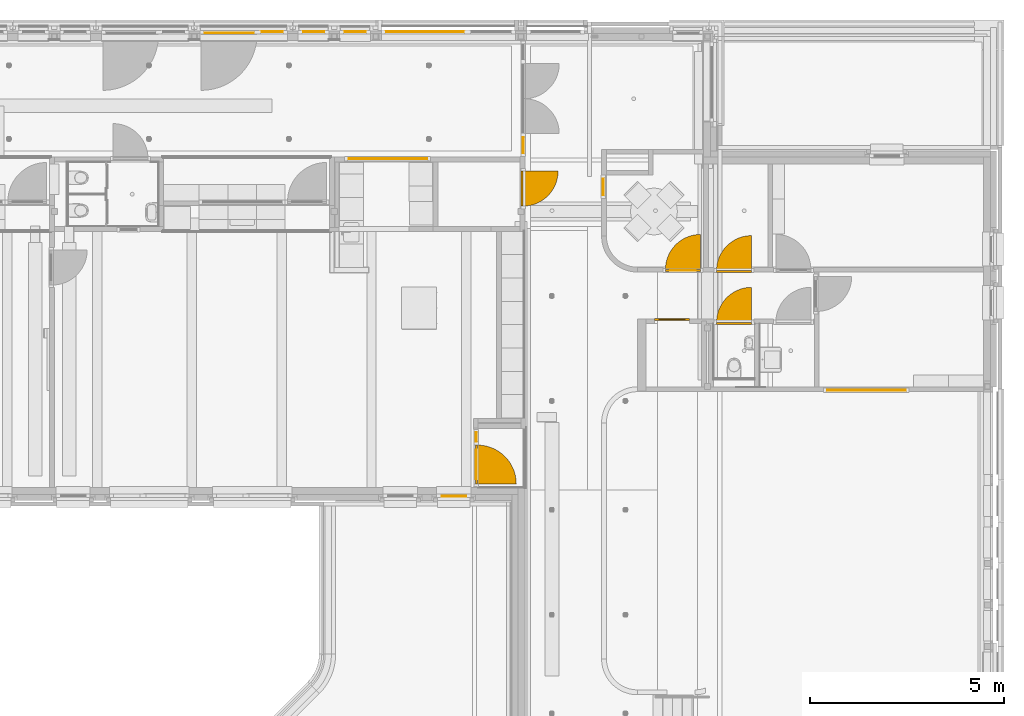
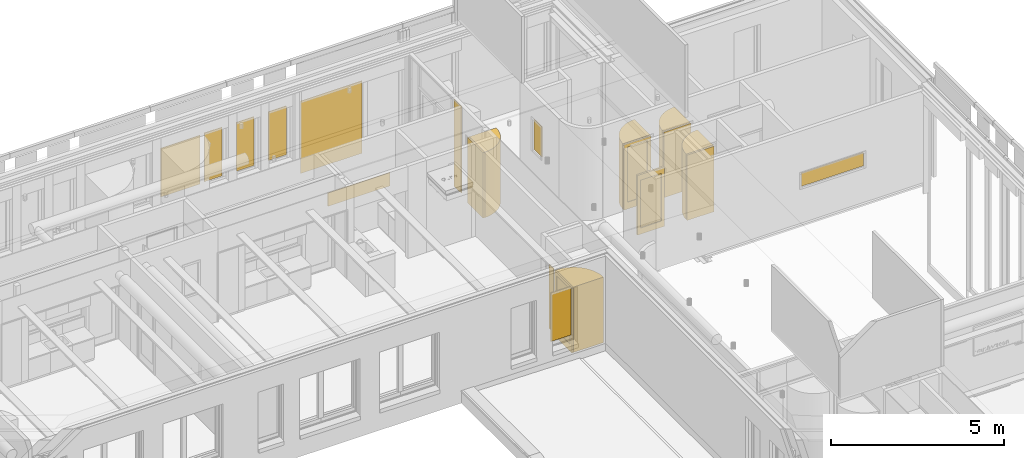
# One storey, part 70 of 128: 18 windows, 6 doors, 5 elements without a shape of their own.
"""IFC2X3 building model written with IfcOpenShell, lengths in millimetres."""

from ifc_helpers import new_model, entity, si_unit, converted_unit, derived_unit, direction, frame, frame_2d, origin, origin_2d_with_axis, place, context, subcontext, project, spatial, polyline, circle_curve, parameter, trimmed, segment, composite_curve, rectangle, outline, extrude, source, transform, mapped, material, material_list, type_object, type_shapes, element, aggregate, save


model = new_model("IFC2X3")

# Units and contexts
model_context = context("Model", 3, precision=0.01, world=origin(), true_north=direction((6.123031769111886e-17, 1.0)))
body_context = subcontext(model_context, "Body", "Model", "MODEL_VIEW")
ifc_project = project(units=[si_unit("LENGTHUNIT", "METRE", prefix="MILLI"), si_unit("AREAUNIT", "SQUARE_METRE"), si_unit("VOLUMEUNIT", "CUBIC_METRE"), converted_unit("PLANEANGLEUNIT", "DEGREE", entity("IfcRatioMeasure", 0.017453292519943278), si_unit("PLANEANGLEUNIT", "RADIAN"), dimensions=[0, 0, 0, 0, 0, 0, 0]), si_unit("MASSUNIT", "GRAM", prefix="KILO"), derived_unit("MASSDENSITYUNIT", [(si_unit("MASSUNIT", "GRAM", prefix="KILO"), 1), (si_unit("LENGTHUNIT", "METRE"), -3)]), derived_unit("IONCONCENTRATIONUNIT", [(si_unit("MASSUNIT", "GRAM", prefix="KILO"), 1), (si_unit("LENGTHUNIT", "METRE"), -3)]), derived_unit("MOMENTOFINERTIAUNIT", [(si_unit("LENGTHUNIT", "METRE"), 4)]), si_unit("TIMEUNIT", "SECOND"), si_unit("FREQUENCYUNIT", "HERTZ"), si_unit("THERMODYNAMICTEMPERATUREUNIT", "DEGREE_CELSIUS"), derived_unit("THERMALTRANSMITTANCEUNIT", [(si_unit("MASSUNIT", "GRAM", prefix="KILO"), 1), (si_unit("THERMODYNAMICTEMPERATUREUNIT", "KELVIN"), -1), (si_unit("TIMEUNIT", "SECOND"), -3)]), derived_unit("THERMALCONDUCTANCEUNIT", [(si_unit("MASSUNIT", "GRAM", prefix="KILO"), 1), (si_unit("THERMODYNAMICTEMPERATUREUNIT", "KELVIN"), -1), (si_unit("TIMEUNIT", "SECOND"), -3), (si_unit("LENGTHUNIT", "METRE"), 1)]), derived_unit("VOLUMETRICFLOWRATEUNIT", [(si_unit("LENGTHUNIT", "METRE"), 3), (si_unit("TIMEUNIT", "SECOND"), -1)]), derived_unit("MASSFLOWRATEUNIT", [(si_unit("MASSUNIT", "GRAM", prefix="KILO"), 1), (si_unit("TIMEUNIT", "SECOND"), -1)]), derived_unit("ROTATIONALFREQUENCYUNIT", [(si_unit("TIMEUNIT", "SECOND"), -1)]), si_unit("ELECTRICCURRENTUNIT", "AMPERE"), si_unit("ELECTRICVOLTAGEUNIT", "VOLT"), si_unit("POWERUNIT", "WATT"), si_unit("FORCEUNIT", "NEWTON", prefix="KILO"), si_unit("ILLUMINANCEUNIT", "LUX"), si_unit("LUMINOUSFLUXUNIT", "LUMEN"), si_unit("LUMINOUSINTENSITYUNIT", "CANDELA"), derived_unit("USERDEFINED", [(si_unit("MASSUNIT", "GRAM", prefix="KILO"), -1), (si_unit("LENGTHUNIT", "METRE"), -2), (si_unit("TIMEUNIT", "SECOND"), 3), (si_unit("LUMINOUSFLUXUNIT", "LUMEN"), 1)]), derived_unit("USERDEFINED", [(si_unit("MASSUNIT", "GRAM", prefix="KILO"), 1), (si_unit("TIMEUNIT", "SECOND"), -3), (si_unit("LENGTHUNIT", "METRE"), 3), (si_unit("ELECTRICCURRENTUNIT", "AMPERE"), -2)]), derived_unit("SOUNDPOWERUNIT", [(si_unit("MASSUNIT", "GRAM", prefix="KILO"), 1), (si_unit("TIMEUNIT", "SECOND"), -3), (si_unit("LENGTHUNIT", "METRE"), 2)]), derived_unit("SOUNDPRESSUREUNIT", [(si_unit("MASSUNIT", "GRAM", prefix="KILO"), 1), (si_unit("LENGTHUNIT", "METRE"), -1), (si_unit("TIMEUNIT", "SECOND"), -2)]), derived_unit("LINEARVELOCITYUNIT", [(si_unit("LENGTHUNIT", "METRE"), 1), (si_unit("TIMEUNIT", "SECOND"), -1)]), si_unit("PRESSUREUNIT", "PASCAL"), derived_unit("USERDEFINED", [(si_unit("MASSUNIT", "GRAM", prefix="KILO"), 1), (si_unit("LENGTHUNIT", "METRE"), -2), (si_unit("TIMEUNIT", "SECOND"), -2)]), derived_unit("LINEARFORCEUNIT", [(si_unit("MASSUNIT", "GRAM", prefix="KILO"), 1), (si_unit("TIMEUNIT", "SECOND"), -2)]), derived_unit("PLANARFORCEUNIT", [(si_unit("MASSUNIT", "GRAM", prefix="KILO"), 1), (si_unit("LENGTHUNIT", "METRE"), -1), (si_unit("TIMEUNIT", "SECOND"), -2)]), derived_unit("SPECIFICHEATCAPACITYUNIT", [(si_unit("THERMODYNAMICTEMPERATUREUNIT", "KELVIN"), -1), (si_unit("LENGTHUNIT", "METRE"), 2), (si_unit("TIMEUNIT", "SECOND"), -2)]), derived_unit("HEATINGVALUEUNIT", [(si_unit("LENGTHUNIT", "METRE"), 2), (si_unit("TIMEUNIT", "SECOND"), -2)]), derived_unit("VAPORPERMEABILITYUNIT", [(si_unit("LENGTHUNIT", "METRE"), -1), (si_unit("TIMEUNIT", "SECOND"), 1)]), derived_unit("DYNAMICVISCOSITYUNIT", [(si_unit("MASSUNIT", "GRAM", prefix="KILO"), 1), (si_unit("TIMEUNIT", "SECOND"), -1), (si_unit("LENGTHUNIT", "METRE"), -1)]), derived_unit("THERMALEXPANSIONCOEFFICIENTUNIT", [(si_unit("THERMODYNAMICTEMPERATUREUNIT", "KELVIN"), -1)]), derived_unit("MODULUSOFELASTICITYUNIT", [(si_unit("MASSUNIT", "GRAM", prefix="KILO"), 1), (si_unit("LENGTHUNIT", "METRE"), -1), (si_unit("TIMEUNIT", "SECOND"), -2)]), derived_unit("ISOTHERMALMOISTURECAPACITYUNIT", [(si_unit("LENGTHUNIT", "METRE"), 3), (si_unit("MASSUNIT", "GRAM", prefix="KILO"), -1)]), derived_unit("MOISTUREDIFFUSIVITYUNIT", [(si_unit("TIMEUNIT", "SECOND"), -1), (si_unit("LENGTHUNIT", "METRE"), 2)])], contexts=[model_context])

# Site, building, storey
site_placement = place(None, frame((0.0, 300.0, 0.0)))
site = spatial("IfcSite", under=ifc_project, at=site_placement, Name="<Kadastrale nummers>", CompositionType="ELEMENT")
building_placement = place(site_placement, origin())
building = spatial("IfcBuilding", under=site, at=building_placement, CompositionType="ELEMENT")
storey_placement = place(building_placement, frame((0.0, 0.0, 3560.0000331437)))
storey = spatial("IfcBuildingStorey", under=building, at=storey_placement, Name="01 eerste verdieping", CompositionType="ELEMENT", Elevation=3560.0000331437)

# Windows
ifc_material_1 = material(Name="Clearance Zones")
window_style_1 = type_object("IfcWindowStyle", Name="BU deur links:BU deur links", ConstructionType="NOTDEFINED", OperationType="NOTDEFINED", ParameterTakesPrecedence=False, Sizeable=False, material=ifc_material_1)
shared_shape_1 = source(origin(), body_context, "Body", "SweptSolid", [
    extrude(outline(composite_curve([segment(polyline([(-600.0, -300.0), (300.0, -300.0)]), True, "CONTINUOUS"), segment(polyline([(300.0, -300.0), (300.0, 600.0)]), True, "CONTINUOUS"), segment(trimmed(circle_curve(frame_2d((300.0, -300.0), x_axis=(1.0, 0.0)), 900.0000000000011), [parameter(90.00000000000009)], [parameter(179.99999999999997)], True, "PARAMETER"), True, "CONTINUOUS")], self_intersect=False)), frame((-150.0, -327.0, -20.0), z_axis=(0.0, 0.0, 1.0), x_axis=(-1.0, 0.0, 0.0)), (0.0, 0.0, 1.0), 2303.0000000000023),
])
type_shapes(window_style_1, [shared_shape_1])
for number, where, z_axis, x_axis, name in (
    (1, (42082.0, 43752.37500267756, 130.00000187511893), (0.0, 0.0, 1.0), (-1.0, 0.0, 0.0), "BU deur links:BU deur links"),
    (2, (42082.0, 42422.37500267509, 130.00000187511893), (0.0, 0.0, 1.0), (-1.0, 0.0, 0.0), "BU deur links:BU deur links"),
    (3, (40768.0, 43782.12500267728, 130.00000187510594), (0.0, 0.0, 1.0), (-1.0, 0.0, 0.0), "BU deur links:BU deur links"),
):
    element("IfcWindow", number, at=place(storey_placement, frame(where, z_axis=z_axis, x_axis=x_axis)), inside=storey, type_object=window_style_1, material=ifc_material_1, Name=name, ObjectType="BU deur links:BU deur links", OverallHeight=1183.999999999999, OverallWidth=900.0000000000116, context=body_context, shape_type="MappedRepresentation", body=[
        mapped(shared_shape_1, transform((0.0, 0.0, 0.0), scale=1.0)),
    ])
window_style_2 = type_object("IfcWindowStyle", Name="BU deur links:BU deur links", ConstructionType="NOTDEFINED", OperationType="NOTDEFINED", ParameterTakesPrecedence=False, Sizeable=False, material=ifc_material_1)
shared_shape_2 = source(origin(), body_context, "Body", "SweptSolid", [
    extrude(outline(composite_curve([segment(trimmed(circle_curve(frame_2d((300.0, 300.0), x_axis=(1.0, 0.0)), 900.0000000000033), [parameter(180.00000000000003)], [parameter(269.9999999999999)], True, "PARAMETER"), True, "CONTINUOUS"), segment(polyline([(300.0, -600.0), (300.0, 300.0)]), True, "CONTINUOUS"), segment(polyline([(300.0, 300.0), (-600.0, 300.0)]), True, "CONTINUOUS")], self_intersect=False)), frame((-150.0, 327.0, -20.0), z_axis=(0.0, 0.0, 1.0), x_axis=(-1.0, 0.0, 0.0)), (0.0, 0.0, 1.0), 2303.0000000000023),
])
type_shapes(window_style_2, [shared_shape_2])
window_1_placement = place(storey_placement, frame((36628.250000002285, 45887.10974942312, 130.0000018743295), z_axis=(0.0, 0.0, 1.0), x_axis=(0.0, -1.0, 0.0)))
element("IfcWindow", 4, at=window_1_placement, inside=storey, type_object=window_style_2, material=ifc_material_1, Name="BU deur links:BU deur links", ObjectType="BU deur links:BU deur links", OverallHeight=1184.0000000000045, OverallWidth=900.0000000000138, context=body_context, shape_type="MappedRepresentation", body=[
    mapped(shared_shape_2, transform((0.0, 0.0, 0.0), scale=1.0)),
])

# Curtain wall, door
curtain_wall_type_1 = type_object("IfcCurtainWallType", Name="Curtain Wall:Merk H02", PredefinedType="NOTDEFINED")
curtain_wall_1_placement = place(storey_placement, frame((0.0, 0.0, -3560.0000331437)))
curtain_wall_1 = element("IfcCurtainWall", 5, at=curtain_wall_1_placement, inside=storey, type_object=curtain_wall_type_1, Name="Curtain Wall:Merk H02", ObjectType="Curtain Wall:Merk H02")
ifc_material_2 = material(Name="ISR_Kunststof_wit")
door_style_1 = type_object("IfcDoorStyle", Name="31_DO_dichte_deur:dichte_deur", ConstructionType="NOTDEFINED", OperationType="NOTDEFINED", ParameterTakesPrecedence=False, Sizeable=False, material=ifc_material_2)
shared_shape_3 = source(origin(), body_context, "Body", "SweptSolid", [
    extrude(rectangle(XDim=899.9999999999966, YDim=26.99999999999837, at=origin_2d_with_axis()), frame((0.0, 12.499999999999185, 0.0)), (0.0, 0.0, 1.0), 2303.0000000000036),
    extrude(rectangle(XDim=899.9999999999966, YDim=26.99999999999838, at=origin_2d_with_axis()), frame((0.0, 39.49999999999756, 0.0)), (0.0, 0.0, 1.0), 2303.000000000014),
])
type_shapes(door_style_1, [shared_shape_3])
door_1_placement = place(curtain_wall_1_placement, frame((36601.0, 45887.10974942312, 3670.0000350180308), z_axis=(0.0, 0.0, 1.0), x_axis=(0.0, -1.0, 0.0)))
door_1 = element("IfcDoor", 6, at=door_1_placement, type_object=door_style_1, material=ifc_material_2, Name="31_DO_dichte_deur:dichte_deur", ObjectType="31_DO_dichte_deur:dichte_deur", OverallHeight=2303.000000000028, OverallWidth=900.0000000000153, context=body_context, shape_type="MappedRepresentation", body=[
    mapped(shared_shape_3, transform((0.0, 0.0, 0.0), scale=1.0)),
])
aggregate(curtain_wall_1, [door_1])

curtain_wall_2_placement = place(storey_placement, frame((0.0, 0.0, -3560.0000331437)))
curtain_wall_2 = element("IfcCurtainWall", 7, at=curtain_wall_2_placement, inside=storey, type_object=curtain_wall_type_1, Name="Curtain Wall:Merk H02", ObjectType="Curtain Wall:Merk H02")
door_style_2 = type_object("IfcDoorStyle", Name="31_DO_dichte_deur:dichte_deur", ConstructionType="NOTDEFINED", OperationType="NOTDEFINED", ParameterTakesPrecedence=False, Sizeable=False, material=ifc_material_2)
shared_shape_4 = source(origin(), body_context, "Body", "SweptSolid", [
    extrude(rectangle(XDim=26.99999999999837, YDim=899.9999999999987, at=origin_2d_with_axis()), frame((0.0, 12.499999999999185, 0.0), z_axis=(0.0, 0.0, 1.0), x_axis=(0.0, 1.0, 0.0)), (0.0, 0.0, 1.0), 2303.0000000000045),
    extrude(rectangle(XDim=26.99999999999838, YDim=899.9999999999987, at=origin_2d_with_axis()), frame((0.0, 39.49999999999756, 0.0), z_axis=(0.0, 0.0, 1.0), x_axis=(0.0, 1.0, 0.0)), (0.0, 0.0, 1.0), 2303.0000000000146),
])
type_shapes(door_style_2, [shared_shape_4])
door_2_placement = place(curtain_wall_2_placement, frame((42082.0, 43725.12500267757, 3670.00003501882)))
door_2 = element("IfcDoor", 8, at=door_2_placement, type_object=door_style_2, material=ifc_material_2, Name="31_DO_dichte_deur:dichte_deur", ObjectType="31_DO_dichte_deur:dichte_deur", OverallHeight=2303.0000000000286, OverallWidth=900.0000000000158, context=body_context, shape_type="MappedRepresentation", body=[
    mapped(shared_shape_4, transform((0.0, 0.0, 0.0), scale=1.0)),
])
aggregate(curtain_wall_2, [door_2])

curtain_wall_3_placement = place(storey_placement, frame((0.0, 0.0, -3560.0000331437)))
curtain_wall_3 = element("IfcCurtainWall", 9, at=curtain_wall_3_placement, inside=storey, type_object=curtain_wall_type_1, Name="Curtain Wall:Merk H02", ObjectType="Curtain Wall:Merk H02")
door_3_placement = place(curtain_wall_3_placement, frame((42082.0, 42395.12500267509, 3670.00003501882)))
door_3 = element("IfcDoor", 10, at=door_3_placement, type_object=door_style_2, material=ifc_material_2, Name="31_DO_dichte_deur:dichte_deur", ObjectType="31_DO_dichte_deur:dichte_deur", OverallHeight=2303.0000000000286, OverallWidth=900.0000000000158, context=body_context, shape_type="MappedRepresentation", body=[
    mapped(shared_shape_4, transform((0.0, 0.0, 0.0), scale=1.0)),
])
aggregate(curtain_wall_3, [door_3])

# Windows
ifc_material_3 = material(Name="glas_enscape")
window_style_3 = type_object("IfcWindowStyle", Name="WI_subvak1:glas 4", ConstructionType="NOTDEFINED", OperationType="NOTDEFINED", ParameterTakesPrecedence=False, Sizeable=False, material=ifc_material_3)
shared_shape_5 = source(origin(), body_context, "Body", "SweptSolid", [
    extrude(rectangle(XDim=24.00000000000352, YDim=245.99999999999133, at=frame_2d((0.0, 1.4210854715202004e-14), x_axis=(1.0, 0.0))), frame((0.0, 0.0, 0.0), z_axis=(0.0, 0.0, 1.0), x_axis=(0.0, -1.0, 0.0)), (0.0, 0.0, 1.0), 2255.9999999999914),
])
type_shapes(window_style_3, [shared_shape_5])
window_2_placement = place(storey_placement, frame((35453.03993791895, 39505.0, 157.0000018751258), z_axis=(0.0, 0.0, 1.0), x_axis=(0.0, -1.0, 0.0)))
element("IfcWindow", 11, at=window_2_placement, inside=storey, type_object=window_style_3, material=ifc_material_3, Name="WI_subvak1:glas 4", ObjectType="WI_subvak1:glas 4", OverallHeight=609.9286498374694, OverallWidth=245.99999999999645, context=body_context, shape_type="MappedRepresentation", body=[
    mapped(shared_shape_5, transform((0.0, 0.0, 0.0), scale=1.0)),
])
window_style_4 = type_object("IfcWindowStyle", Name="WI_subvak1:glas 4", ConstructionType="NOTDEFINED", OperationType="NOTDEFINED", ParameterTakesPrecedence=False, Sizeable=False, material=ifc_material_3)
shared_shape_6 = source(origin(), body_context, "Body", "SweptSolid", [
    extrude(rectangle(XDim=466.0000000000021, YDim=24.000000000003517, at=origin_2d_with_axis()), origin(), (0.0, 0.0, 1.0), 1055.9999999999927),
])
type_shapes(window_style_4, [shared_shape_6])
window_3_placement = place(storey_placement, frame((38717.0, 45935.0, 1357.0), z_axis=(0.0, 0.0, 1.0), x_axis=(0.0, -1.0, 0.0)))
element("IfcWindow", 12, at=window_3_placement, inside=storey, type_object=window_style_4, material=ifc_material_3, Name="WI_subvak1:glas 4", ObjectType="WI_subvak1:glas 4", OverallHeight=609.9286498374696, OverallWidth=466.00000000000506, context=body_context, shape_type="MappedRepresentation", body=[
    mapped(shared_shape_6, transform((0.0, 0.0, 0.0), scale=1.0)),
])

# Curtain wall, door
curtain_wall_type_2 = type_object("IfcCurtainWallType", Name="Curtain Wall:Merk H03", PredefinedType="NOTDEFINED")
curtain_wall_4_placement = place(storey_placement, frame((0.0, 0.0, -3560.0000331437)))
curtain_wall_4 = element("IfcCurtainWall", 13, at=curtain_wall_4_placement, inside=storey, type_object=curtain_wall_type_2, Name="Curtain Wall:Merk H03", ObjectType="Curtain Wall:Merk H03")
ifc_material_4 = material(Name="HPL F7853 ocean gray")
door_style_3 = type_object("IfcDoorStyle", Name="31_DO_deur_met_stapeldorpel:deur_met_stapeldorpel", ConstructionType="NOTDEFINED", OperationType="NOTDEFINED", ParameterTakesPrecedence=False, Sizeable=False, material=ifc_material_4)
shared_shape_7 = source(origin(), body_context, "Body", "SweptSolid", [
    extrude(outline(polyline([(-500.0, -1151.4999999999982), (500.0, -1151.4999999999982), (500.0, 1151.4999999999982), (-500.0, 1151.4999999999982), (-500.0, -1151.4999999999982)]), holes=[polyline([(-380.0, 911.499999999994), (380.0, 911.4999999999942), (380.0, -1031.4999999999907), (-380.0, -1031.499999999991), (-380.0, 911.499999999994)])]), frame((0.0, 57.0, 1151.5000000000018), z_axis=(0.0, 1.0, 0.0), x_axis=(1.0, 0.0, 0.0)), (0.0, 0.0, 1.0), 26.999999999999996),
    extrude(outline(polyline([(-500.0, -1151.4999999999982), (500.0, -1151.4999999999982), (500.0, 1151.4999999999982), (-500.0, 1151.4999999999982), (-500.0, -1151.4999999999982)]), holes=[polyline([(-380.0, 911.4999999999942), (380.0, 911.4999999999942), (380.0, -1031.4999999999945), (-380.0, -1031.4999999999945), (-380.0, 911.4999999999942)])]), frame((0.0, 30.0, 1151.5000000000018), z_axis=(0.0, 1.0, 0.0), x_axis=(1.0, 0.0, 0.0)), (0.0, 0.0, 1.0), 26.99999999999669),
])
type_shapes(door_style_3, [shared_shape_7])
door_4_placement = place(curtain_wall_4_placement, frame((35396.03993791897, 38792.0, 3670.0000350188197), z_axis=(0.0, 0.0, 1.0), x_axis=(0.0, -1.0, 0.0)))
door_4 = element("IfcDoor", 14, at=door_4_placement, type_object=door_style_3, material=ifc_material_4, Name="31_DO_deur_met_stapeldorpel:deur_met_stapeldorpel", ObjectType="31_DO_deur_met_stapeldorpel:deur_met_stapeldorpel", OverallHeight=2303.0000000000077, OverallWidth=1000.0000000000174, context=body_context, shape_type="MappedRepresentation", body=[
    mapped(shared_shape_7, transform((0.0, 0.0, 0.0), scale=1.0)),
])
aggregate(curtain_wall_4, [door_4])

# Windows
window_style_5 = type_object("IfcWindowStyle", Name="WI_subvak1:glas 4", ConstructionType="NOTDEFINED", OperationType="NOTDEFINED", ParameterTakesPrecedence=False, Sizeable=False, material=ifc_material_3)
shared_shape_8 = source(origin(), body_context, "Body", "SweptSolid", [
    extrude(rectangle(XDim=24.000000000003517, YDim=2071.0000000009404, at=frame_2d((0.0, 1.1368683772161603e-13), x_axis=(1.0, 0.0))), frame((0.0, 0.0, 0.0), z_axis=(0.0, 0.0, 1.0), x_axis=(0.0, -1.0, 0.0)), (0.0, 0.0, 1.0), 465.9999999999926),
])
type_shapes(window_style_5, [shared_shape_8])
for number, where, name in (
    (15, (33168.5000717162, 46658.0, 1357.0), "WI_subvak1:glas 4"),
    (16, (45482.49999999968, 40707.0, 1357.0), "WI_subvak1:glas 4"),
):
    element("IfcWindow", number, at=place(storey_placement, frame(where)), inside=storey, type_object=window_style_5, material=ifc_material_3, Name=name, ObjectType="WI_subvak1:glas 4", OverallHeight=609.9286498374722, OverallWidth=2071.0000000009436, context=body_context, shape_type="MappedRepresentation", body=[
        mapped(shared_shape_8, transform((0.0, 0.0, 0.0), scale=1.0)),
    ])

# Curtain wall, door
curtain_wall_type_3 = type_object("IfcCurtainWallType", Name="Curtain Wall:Merk H16", PredefinedType="NOTDEFINED")
curtain_wall_5_placement = place(storey_placement, frame((0.0, 0.0, -3560.0000331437)))
curtain_wall_5 = element("IfcCurtainWall", 17, at=curtain_wall_5_placement, inside=storey, type_object=curtain_wall_type_3, Name="Curtain Wall:Merk H16", ObjectType="Curtain Wall:Merk H16")
door_style_4 = type_object("IfcDoorStyle", Name="31_DO_deur_met_stapeldorpel:deur_met_stapeldorpel", ConstructionType="NOTDEFINED", OperationType="NOTDEFINED", ParameterTakesPrecedence=False, Sizeable=False, material=ifc_material_4)
shared_shape_9 = source(origin(), body_context, "Body", "SweptSolid", [
    extrude(outline(polyline([(-450.0, -1151.4999999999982), (450.0, -1151.4999999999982), (450.0, 1151.4999999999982), (-450.0, 1151.4999999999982), (-450.0, -1151.4999999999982)]), holes=[polyline([(-330.0, 911.499999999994), (330.0, 911.4999999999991), (330.0, -1031.4999999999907), (-330.0, -1031.499999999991), (-330.0, 911.499999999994)])]), frame((0.0, 57.0, 1151.5000000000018), z_axis=(0.0, 1.0, 0.0), x_axis=(1.0, 0.0, 0.0)), (0.0, 0.0, 1.0), 26.999999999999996),
    extrude(outline(polyline([(-450.0, -1151.4999999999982), (450.0, -1151.4999999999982), (450.0, 1151.4999999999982), (-450.0, 1151.4999999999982), (-450.0, -1151.4999999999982)]), holes=[polyline([(-330.0, 911.4999999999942), (330.0, 911.4999999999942), (330.0, -1031.4999999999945), (-330.0, -1031.4999999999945), (-330.0, 911.4999999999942)])]), frame((0.0, 30.0, 1151.5000000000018), z_axis=(0.0, 1.0, 0.0), x_axis=(1.0, 0.0, 0.0)), (0.0, 0.0, 1.0), 26.99999999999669),
])
type_shapes(door_style_4, [shared_shape_9])
door_5_placement = place(curtain_wall_5_placement, frame((40768.0, 43725.12500267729, 3670.000035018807)))
door_5 = element("IfcDoor", 18, at=door_5_placement, type_object=door_style_4, material=ifc_material_4, Name="31_DO_deur_met_stapeldorpel:deur_met_stapeldorpel", ObjectType="31_DO_deur_met_stapeldorpel:deur_met_stapeldorpel", OverallHeight=2303.0000000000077, OverallWidth=900.0000000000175, context=body_context, shape_type="MappedRepresentation", body=[
    mapped(shared_shape_9, transform((0.0, 0.0, 0.0), scale=1.0)),
])
aggregate(curtain_wall_5, [door_5])

# Windows
window_style_6 = type_object("IfcWindowStyle", Name="BU deur links:BU deur links", ConstructionType="NOTDEFINED", OperationType="NOTDEFINED", ParameterTakesPrecedence=False, Sizeable=False, material=ifc_material_1)
shared_shape_10 = source(origin(), body_context, "Body", "SweptSolid", [
    extrude(outline(composite_curve([segment(polyline([(-666.6666666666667, -333.33333333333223), (333.3333333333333, -333.33333333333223)]), True, "CONTINUOUS"), segment(polyline([(333.3333333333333, -333.33333333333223), (333.33333333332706, 666.6666666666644)]), True, "CONTINUOUS"), segment(trimmed(circle_curve(frame_2d((333.3333333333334, -333.33333333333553), x_axis=(1.0, 0.0)), 1000.0000000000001), [parameter(90.00000000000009)], [parameter(179.99999999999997)], True, "PARAMETER"), True, "CONTINUOUS")], self_intersect=False)), frame((-166.66666666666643, -360.3333333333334, -20.0), z_axis=(0.0, 0.0, 1.0), x_axis=(-1.0, 0.0, 0.0)), (0.0, 0.0, 1.0), 2303.0000000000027),
])
type_shapes(window_style_6, [shared_shape_10])
window_4_placement = place(storey_placement, frame((35453.03993791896, 38792.0, 130.0000018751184), z_axis=(0.0, 0.0, 1.0), x_axis=(0.0, 1.0, 0.0)))
element("IfcWindow", 19, at=window_4_placement, inside=storey, type_object=window_style_6, material=ifc_material_1, Name="BU deur links:BU deur links", ObjectType="BU deur links:BU deur links", OverallHeight=1284.0000000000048, OverallWidth=1000.0000000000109, context=body_context, shape_type="MappedRepresentation", body=[
    mapped(shared_shape_10, transform((0.0, 0.0, 0.0), scale=1.0)),
])
window_style_7 = type_object("IfcWindowStyle", Name="WI_subvak1:glas 2", ConstructionType="NOTDEFINED", OperationType="NOTDEFINED", ParameterTakesPrecedence=False, Sizeable=False, material=ifc_material_3)
shared_shape_11 = source(origin(), body_context, "Body", "SweptSolid", [
    extrude(rectangle(XDim=24.000000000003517, YDim=759.9999999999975, at=frame_2d((0.0, -2.842170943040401e-14), x_axis=(1.0, 0.0))), frame((0.0, 0.0, 0.0), z_axis=(0.0, 0.0, 1.0), x_axis=(0.0, -1.0, 0.0)), (0.0, 0.0, 1.0), 1942.999999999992),
])
type_shapes(window_style_7, [shared_shape_11])
window_5_placement = place(storey_placement, frame((35453.03993791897, 38792.0, 350.00000187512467), z_axis=(0.0, 0.0, 1.0), x_axis=(0.0, -1.0, 0.0)))
element("IfcWindow", 20, at=window_5_placement, inside=storey, type_object=window_style_7, material=ifc_material_3, Name="WI_subvak1:glas 2", ObjectType="WI_subvak1:glas 2", OverallHeight=609.9286498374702, OverallWidth=760.0000000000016, context=body_context, shape_type="MappedRepresentation", body=[
    mapped(shared_shape_11, transform((0.0, 0.0, 0.0), scale=1.0)),
])
window_style_8 = type_object("IfcWindowStyle", Name="WI_subvak1:glas 2", ConstructionType="NOTDEFINED", OperationType="NOTDEFINED", ParameterTakesPrecedence=False, Sizeable=False, material=ifc_material_3)
shared_shape_12 = source(origin(), body_context, "Body", "SweptSolid", [
    extrude(rectangle(XDim=24.00000000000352, YDim=660.0000000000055, at=frame_2d((0.0, 2.842170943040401e-14), x_axis=(1.0, 0.0))), frame((0.0, 0.0, 0.0), z_axis=(0.0, 0.0, 1.0), x_axis=(0.0, -1.0, 0.0)), (0.0, 0.0, 1.0), 1942.999999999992),
])
type_shapes(window_style_8, [shared_shape_12])
window_6_placement = place(storey_placement, frame((40768.0, 43782.12500267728, 350.0000018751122)))
element("IfcWindow", 21, at=window_6_placement, inside=storey, type_object=window_style_8, material=ifc_material_3, Name="WI_subvak1:glas 2", ObjectType="WI_subvak1:glas 2", OverallHeight=609.9286498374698, OverallWidth=660.0000000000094, context=body_context, shape_type="MappedRepresentation", body=[
    mapped(shared_shape_12, transform((0.0, 0.0, 0.0), scale=1.0)),
])
window_style_9 = type_object("IfcWindowStyle", Name="WI_subvak1:glas 4", ConstructionType="NOTDEFINED", OperationType="NOTDEFINED", ParameterTakesPrecedence=False, Sizeable=False, material=ifc_material_3)
shared_shape_13 = source(origin(), body_context, "Body", "SweptSolid", [
    extrude(rectangle(XDim=24.00000000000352, YDim=428.0000000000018, at=origin_2d_with_axis()), frame((0.0, 0.0, 0.0), z_axis=(0.0, 0.0, 1.0), x_axis=(0.0, -1.0, 0.0)), (0.0, 0.0, 1.0), 3055.9999999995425),
])
type_shapes(window_style_9, [shared_shape_13])
window_7_placement = place(storey_placement, frame((36658.0, 46996.0, 157.00000187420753), z_axis=(0.0, 0.0, 1.0), x_axis=(0.0, -1.0, 0.0)))
element("IfcWindow", 22, at=window_7_placement, inside=storey, type_object=window_style_9, material=ifc_material_3, Name="WI_subvak1:glas 4", ObjectType="WI_subvak1:glas 4", OverallHeight=609.9286498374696, OverallWidth=428.00000000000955, context=body_context, shape_type="MappedRepresentation", body=[
    mapped(shared_shape_13, transform((0.0, 0.0, 0.0), scale=1.0)),
])
window_style_10 = type_object("IfcWindowStyle", Name="WI_subvak1:glas 4", ConstructionType="NOTDEFINED", OperationType="NOTDEFINED", ParameterTakesPrecedence=False, Sizeable=False, material=ifc_material_3)
shared_shape_14 = source(origin(), body_context, "Body", "SweptSolid", [
    extrude(rectangle(XDim=680.000000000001, YDim=24.00000000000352, at=origin_2d_with_axis()), origin(), (0.0, 0.0, 1.0), 1710.0000000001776),
])
type_shapes(window_style_10, [shared_shape_14])
window_8_placement = place(storey_placement, frame((34874.0, 37975.0, 1020.0)))
element("IfcWindow", 23, at=window_8_placement, inside=storey, type_object=window_style_10, material=ifc_material_3, Name="WI_subvak1:glas 4", ObjectType="WI_subvak1:glas 4", OverallHeight=609.9286498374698, OverallWidth=680.0000000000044, context=body_context, shape_type="MappedRepresentation", body=[
    mapped(shared_shape_14, transform((0.0, 0.0, 0.0), scale=1.0)),
])
window_style_11 = type_object("IfcWindowStyle", Name="WI_subvak1:glas 4", ConstructionType="NOTDEFINED", OperationType="NOTDEFINED", ParameterTakesPrecedence=False, Sizeable=False, material=ifc_material_3)
shared_shape_15 = source(origin(), body_context, "Body", "SweptSolid", [
    extrude(rectangle(XDim=590.000000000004, YDim=24.00000000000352, at=frame_2d((0.0, -1.7763568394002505e-15), x_axis=(1.0, 0.0))), origin(), (0.0, 0.0, 1.0), 1709.9999649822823),
])
type_shapes(window_style_11, [shared_shape_15])
for number, where, z_axis, x_axis, name in (
    (24, (32335.0, 49925.0, 1020.0), (0.0, 0.0, 1.0), (-1.0, 0.0, 0.0), "WI_subvak1:glas 4"),
    (25, (31265.0, 49925.0, 1020.0), (0.0, 0.0, 1.0), (-1.0, 0.0, 0.0), "WI_subvak1:glas 4"),
    (26, (30195.0, 49925.0, 1020.0), (0.0, 0.0, 1.0), (-1.0, 0.0, 0.0), "WI_subvak1:glas 4"),
):
    element("IfcWindow", number, at=place(storey_placement, frame(where, z_axis=z_axis, x_axis=x_axis)), inside=storey, type_object=window_style_11, material=ifc_material_3, Name=name, ObjectType="WI_subvak1:glas 4", OverallHeight=609.9286498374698, OverallWidth=590.0000000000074, context=body_context, shape_type="MappedRepresentation", body=[
        mapped(shared_shape_15, transform((0.0, 0.0, 0.0), scale=1.0)),
    ])
window_style_12 = type_object("IfcWindowStyle", Name="WI_subvak:glas 2", ConstructionType="NOTDEFINED", OperationType="NOTDEFINED", ParameterTakesPrecedence=False, Sizeable=False, material=ifc_material_3)
shared_shape_16 = source(origin(), body_context, "Body", "SweptSolid", [
    extrude(rectangle(XDim=1306.000000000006, YDim=24.00000000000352, at=frame_2d((0.0, -1.7763568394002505e-15), x_axis=(1.0, 0.0))), origin(), (0.0, 0.0, 1.0), 1709.9999649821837),
])
type_shapes(window_style_12, [shared_shape_16])
window_9_placement = place(storey_placement, frame((29093.0, 49890.49999999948, 1020.0), z_axis=(0.0, 0.0, 1.0), x_axis=(-1.0, 0.0, 0.0)))
element("IfcWindow", 27, at=window_9_placement, inside=storey, type_object=window_style_12, material=ifc_material_3, Name="WI_subvak:glas 2", ObjectType="WI_subvak:glas 2", OverallHeight=609.928649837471, OverallWidth=1306.0000000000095, context=body_context, shape_type="MappedRepresentation", body=[
    mapped(shared_shape_16, transform((0.0, 0.0, 0.0), scale=1.0)),
])
window_style_13 = type_object("IfcWindowStyle", Name="WI_subvak1:glas 4", ConstructionType="NOTDEFINED", OperationType="NOTDEFINED", ParameterTakesPrecedence=False, Sizeable=False, material=ifc_material_3)
shared_shape_17 = source(origin(), body_context, "Body", "SweptSolid", [
    extrude(rectangle(XDim=2045.0000000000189, YDim=24.00000000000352, at=frame_2d((0.0, -8.881784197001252e-16), x_axis=(1.0, 0.0))), origin(), (0.0, 0.0, 1.0), 2539.9999649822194),
])
type_shapes(window_style_13, [shared_shape_17])
window_10_placement = place(storey_placement, frame((34132.50000000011, 49925.0, 190.00000187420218), z_axis=(0.0, 0.0, 1.0), x_axis=(-1.0, 0.0, 0.0)))
element("IfcWindow", 28, at=window_10_placement, inside=storey, type_object=window_style_13, material=ifc_material_3, Name="WI_subvak1:glas 4", ObjectType="WI_subvak1:glas 4", OverallHeight=609.928649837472, OverallWidth=2045.0000000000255, context=body_context, shape_type="MappedRepresentation", body=[
    mapped(shared_shape_17, transform((0.0, 0.0, 0.0), scale=1.0)),
])

# Door
ifc_material_5 = material(Name="cibes_RAL_9016")
ifc_material_6 = material(Name="cibes_glass")
ifc_material_list = material_list([ifc_material_5, ifc_material_6])
door_style_5 = type_object("IfcDoorStyle", Name="Aluminium Door_single_glass:Left hinged", ConstructionType="NOTDEFINED", OperationType="NOTDEFINED", ParameterTakesPrecedence=False, Sizeable=False, material=ifc_material_list)
shared_shape_18 = source(origin(), body_context, "Body", "SweptSolid", [
    extrude(outline(polyline([(-1050.0, -450.0), (1050.0, -450.0), (1050.0, 450.0), (-1050.0, 450.0), (-1050.0, -450.0)]), holes=[polyline([(-850.0, -345.0), (-850.0, 345.0), (831.0, 345.0), (831.0, -345.0), (-850.0, -345.0)])]), frame((563.0, 0.0, 1100.0), z_axis=(0.0, 1.0, 0.0), x_axis=(0.0, 0.0, -1.0)), (0.0, 0.0, 1.0), 54.999999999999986),
    extrude(rectangle(XDim=689.9999999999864, YDim=25.0, at=frame_2d((5.684341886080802e-14, 0.0), x_axis=(1.0, 0.0))), frame((563.0, 27.499999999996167, 269.0)), (0.0, 0.0, 1.0), 1681.0000000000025),
])
type_shapes(door_style_5, [shared_shape_18])
door_6_placement = place(storey_placement, frame((39920.99978599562, 42490.0, 45.000001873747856)))
element("IfcDoor", 29, at=door_6_placement, inside=storey, type_object=door_style_5, material=ifc_material_list, Name="Aluminium Door_single_glass:Left hinged", ObjectType="Aluminium Door_single_glass:Left hinged", OverallHeight=900.0000000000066, OverallWidth=900.000000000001, context=body_context, shape_type="MappedRepresentation", body=[
    mapped(shared_shape_18, transform((0.0, 0.0, 0.0), scale=1.0)),
])

save(model, "model.ifc")
